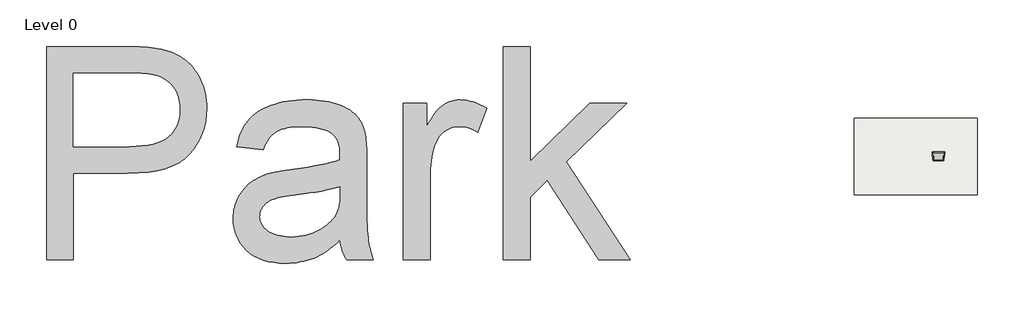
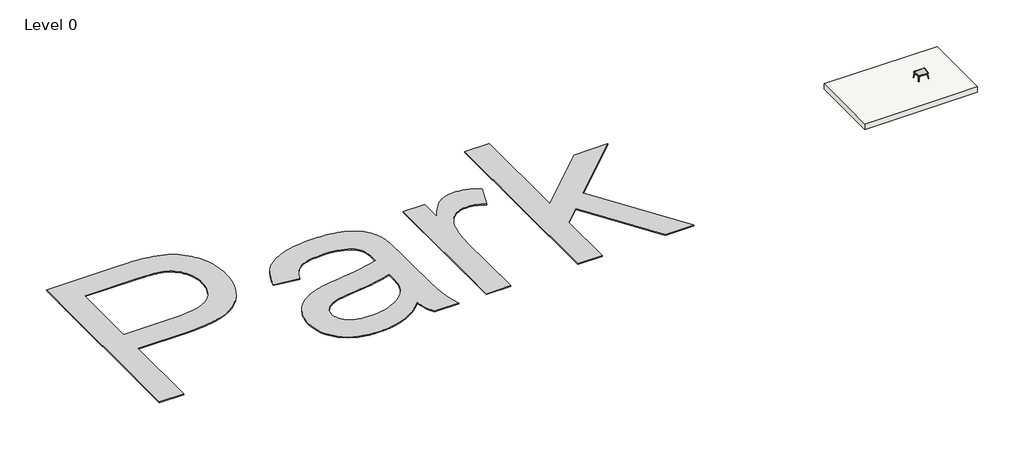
# One storey, incomplete: 1 furniture element, 1 proxy, 1 slab.
"""IFC4 building model written with IfcOpenShell, lengths in millimetres."""

from ifc_helpers import new_model, si_unit, frame, origin, origin_with_axes, place, context, project, spatial, polyline, outline, extrude, transform, mapped, element, save
from components import furniture_a147c030

model = new_model("IFC4")

# Units and contexts
model_context = context("Model", 3, world=origin())
ifc_project = project(units=[si_unit("LENGTHUNIT", "METRE", prefix="MILLI")], contexts=[model_context])

# Site, building, storey
site = spatial("IfcSite", under=ifc_project)
building = spatial("IfcBuilding", under=site)
storey = spatial("IfcBuildingStorey", under=building, Name="Level 0", Elevation=0.0)

# Proxy
placement = place(None, origin())
element("IfcBuildingElementProxy", 1, Name="10 mm", ObjectType="10 mm", at=placement, inside=storey, context=model_context, shape_type="SweptSolid", body=[
    extrude(outline(polyline([(-143068.5939078, 70710.4267394), (-143068.5939078, 80756.0577544), (-139345.6281167, 80756.0577544), (-139107.0413144, 80754.5632338), (-138883.0165077, 80750.0796719), (-138673.5536967, 80742.6070689), (-138478.6528814, 80732.1454247), (-138298.3140616, 80718.6947392), (-138132.5372376, 80702.2550126), (-137981.3224091, 80682.8262447), (-137844.6695763, 80660.4084356), (-137666.2659692, 80626.2452274), (-137495.258323, 80585.0692687), (-137331.6466377, 80536.8805594), (-137175.4309134, 80481.6790996), (-137026.6111501, 80419.4648893), (-136885.1873477, 80350.2379284), (-136751.1595062, 80273.998217), (-136624.5276257, 80190.7457551), (-136504.6019273, 80099.6566403), (-136390.6926325, 79999.9069701), (-136282.7997411, 79891.4967447), (-136180.9232531, 79774.4259639), (-136085.0631687, 79648.6946278), (-135995.2194877, 79514.3027365), (-135911.3922101, 79371.2502898), (-135833.581336, 79219.5372878), (-135763.4538307, 79061.5971167), (-135702.6766594, 78899.8631625), (-135651.2498222, 78734.3354251), (-135609.173319, 78565.0139048), (-135576.4471498, 78391.8986013), (-135553.0713147, 78214.9895148), (-135539.0458136, 78034.2866452), (-135534.3706466, 77849.7899925), (-135546.9974297, 77535.2892076), (-135584.8777789, 77233.1277981), (-135648.0116942, 76943.3057637), (-135736.3991756, 76665.8231047), (-135850.0402232, 76400.6798208), (-135988.9348369, 76147.8759123), (-136153.0830167, 75907.411379), (-136342.4847627, 75679.2862209), (-136564.8426041, 75471.2029674), (-136827.8590701, 75290.8641477), (-137131.5341608, 75138.2697618), (-137475.8678762, 75013.4198097), (-137860.8602162, 74916.3142914), (-138286.511181, 74846.9532068), (-138752.8207704, 74805.3365561), (-139259.7889844, 74791.4643392), (-141812.890031, 74791.4643392), (-141812.890031, 70710.4267394), (-143068.5939078, 70710.4267394)]), holes=[polyline([(-141812.890031, 76047.1682161), (-139186.2125854, 76047.1682161), (-138872.4399004, 76054.3725718), (-138582.2729767, 76075.9856391), (-138315.7118143, 76112.0074178), (-138072.7564133, 76162.4379079), (-137853.4067737, 76227.2771096), (-137657.6628955, 76306.5250227), (-137485.5247785, 76400.1816473), (-137336.992423, 76508.2469834), (-137208.8085403, 76629.3797945), (-137097.715842, 76762.2388442), (-137003.714328, 76906.8241325), (-136926.8039984, 77063.1356595), (-136866.9848531, 77231.173425), (-136824.2568922, 77410.9374291), (-136798.6201157, 77602.4276718), (-136790.0745235, 77805.6441531), (-136795.1137404, 77954.9429294), (-136810.2313911, 78098.7234759), (-136835.4274757, 78236.9857924), (-136870.7019941, 78369.729879), (-136916.0549463, 78496.9557357), (-136971.4863324, 78618.6633624), (-137036.9961522, 78734.8527592), (-137112.5844059, 78845.5239261), (-137196.3733624, 78948.8374531), (-137286.4852907, 79042.9539302), (-137382.9201908, 79127.8733574), (-137485.6780627, 79203.5957347), (-137594.7589064, 79270.1210622), (-137710.1627218, 79327.4493398), (-137831.8895091, 79375.5805675), (-137959.9392682, 79414.5147453), (-138054.1323873, 79434.6332919), (-138166.2597538, 79452.0693656), (-138296.3213675, 79466.8229665), (-138444.3172285, 79478.8940944), (-138610.2473367, 79488.2827495), (-138794.1116922, 79494.9889317), (-139215.643145, 79500.3538775), (-141812.890031, 79500.3538775), (-141812.890031, 76047.1682161)])]), origin_with_axes(), (0.0, 0.0, 1.0), 50.0),
    extrude(outline(polyline([(-129255.8512623, 71652.2046471), (-129404.1728521, 71506.92958), (-129553.6057521, 71372.7676149), (-129704.1499623, 71249.7187517), (-129855.8054827, 71137.7829905), (-130008.5723133, 71036.9603312), (-130162.4504541, 70947.2507738), (-130317.4399051, 70868.6543184), (-130473.5406663, 70801.1709649), (-130631.6341216, 70743.1145875), (-130792.601655, 70692.7990605), (-130956.4432665, 70650.2243837), (-131123.1589561, 70615.3905573), (-131292.7487238, 70588.2975812), (-131465.2125696, 70568.9454554), (-131640.5504934, 70557.33418), (-131818.7624953, 70553.4637548), (-132106.9175644, 70562.7757678), (-132377.8664859, 70590.7118068), (-132631.60926, 70637.2718718), (-132868.1458866, 70702.4559628), (-133087.4763657, 70786.2640799), (-133289.6006973, 70888.6962229), (-133474.5188814, 71009.7523919), (-133642.2309181, 71149.432587), (-133791.3955708, 71303.5981356), (-133920.6716032, 71468.1103653), (-134030.0590152, 71642.9692761), (-134119.5578068, 71828.1748681), (-134189.1679781, 72023.7271412), (-134238.889529, 72229.6260953), (-134268.7224596, 72445.8717306), (-134278.6667698, 72672.464047), (-134274.9113077, 72807.0858646), (-134263.6449216, 72938.718641), (-134244.8676114, 73067.3623762), (-134218.5793772, 73193.0170702), (-134184.7802189, 73315.682723), (-134143.4701365, 73435.3593345), (-134094.6491301, 73552.0469049), (-134038.3171996, 73665.745434), (-133975.873063, 73775.1903276), (-133908.7154384, 73879.1169912), (-133836.8443257, 73977.5254249), (-133760.2597249, 74070.4156287), (-133678.9616361, 74157.7876025), (-133592.9500592, 74239.6413465), (-133502.2249942, 74315.9768605), (-133406.7864412, 74386.7941445), (-133307.477463, 74452.7829774), (-133205.1411226, 74514.6331379), (-133099.7774199, 74572.3446259), (-132991.386355, 74625.9174414), (-132879.9679278, 74675.3515845), (-132765.5221383, 74720.6470552), (-132648.0489867, 74761.8038534), (-132527.5484727, 74798.8219791), (-132324.4469545, 74847.4130593), (-132075.6667553, 74895.0844345), (-131781.207875, 74941.8361048), (-131441.0703136, 74987.66807), (-131083.5349996, 75034.1131719), (-130750.3718677, 75082.7042521), (-130441.580918, 75133.4413106), (-130157.1621505, 75186.3243474), (-129897.1155651, 75241.3533625), (-129661.441162, 75298.5283559), (-129450.138941, 75357.8493276), (-129263.2089022, 75419.3162777), (-129255.8512623, 75698.906594), (-129261.2545291, 75857.172494), (-129277.4643295, 76003.328945), (-129304.4806635, 76137.375947), (-129342.3035311, 76259.3135), (-129390.9329324, 76369.141604), (-129450.3688672, 76466.8602589), (-129520.6113357, 76552.4694649), (-129601.6603377, 76625.9692219), (-129725.2840165, 76711.0419332), (-129863.1631226, 76784.7716164), (-130015.2976561, 76847.1582715), (-130181.6876168, 76898.2018983), (-130362.3330049, 76937.9024969), (-130557.2338202, 76966.2600674), (-130766.3900629, 76983.2746097), (-130989.8017329, 76988.9461238), (-131197.9616285, 76985.1715012), (-131392.0193809, 76973.8476335), (-131571.9749902, 76954.9745208), (-131737.8284564, 76928.5521629), (-131889.5797794, 76894.5805599), (-132027.2289593, 76853.0597118), (-132150.775996, 76803.9896186), (-132260.2208896, 76747.3702803), (-132359.280781, 76681.1323606), (-132451.6728112, 76603.2065234), (-132537.3969803, 76513.5927686), (-132616.4532882, 76412.2910963), (-132688.841735, 76299.3015064), (-132754.5623206, 76174.623999), (-132813.615045, 76038.258574), (-132865.9999083, 75890.2052315), (-134121.7037851, 76047.1682161), (-134077.2705379, 76232.6420553), (-134026.1311085, 76408.9188447), (-133968.2854968, 76575.9985842), (-133903.733703, 76733.8812738), (-133832.475727, 76882.5669135), (-133754.5115687, 77022.0555033), (-133669.8412283, 77152.3470433), (-133578.4647056, 77273.4415334), (-133478.4851092, 77386.6035679), (-133368.0055475, 77493.0977413), (-133247.0260206, 77592.9240536), (-133115.5465283, 77686.0825046), (-132973.5670708, 77772.5730945), (-132821.087648, 77852.3958233), (-132658.10826, 77925.5506909), (-132484.6289066, 77992.0376973), (-132302.3548743, 78051.2437059), (-132112.9914494, 78102.55558), (-131916.5386319, 78145.9733196), (-131712.9964217, 78181.4969248), (-131502.364819, 78209.1263955), (-131284.6438236, 78228.8617317), (-131059.8334356, 78240.7029334), (-130827.933655, 78244.6500006), (-130599.2145208, 78241.1627859), (-130381.4935254, 78230.7011416), (-130174.7706689, 78213.2650679), (-129979.0459511, 78188.8545647), (-129794.3193722, 78157.469632), (-129620.5909321, 78119.1102698), (-129457.8606308, 78073.7764781), (-129306.1284683, 78021.4682569), (-129164.7429869, 77963.8908925), (-129033.0527289, 77902.7496714), (-128911.0576944, 77838.0445934), (-128798.7578833, 77769.7756585), (-128696.1532955, 77697.9428669), (-128603.2439312, 77622.5462184), (-128520.0297904, 77543.5857131), (-128446.5108729, 77461.0613509), (-128380.4070769, 77373.9767849), (-128319.4383004, 77281.3356678), (-128263.6045434, 77183.1379999), (-128212.9058059, 77079.3837809), (-128167.342088, 76970.073011), (-128126.9133896, 76855.2056901), (-128091.6197107, 76734.7818182), (-128061.4610513, 76608.8013954), (-128047.0906608, 76521.8892741), (-128034.6363225, 76420.5684412), (-128015.4758019, 76174.7006411), (-128003.9794895, 75871.1979951), (-128000.1473854, 75510.0605032), (-128000.1473854, 73947.788297), (-127996.1619971, 73199.8382155), (-127984.2058323, 72586.9314831), (-127975.2387086, 72331.1193728), (-127964.2788909, 72109.0680998), (-127951.326379, 71920.7776641), (-127936.3811729, 71766.2480656), (-127918.5235677, 71629.307825), (-127896.8338584, 71493.7854629), (-127871.312045, 71359.6809793), (-127841.9581275, 71226.9943743), (-127808.7721058, 71095.7256478), (-127771.7539801, 70965.8747998), (-127730.9037502, 70837.4418303), (-127686.2214162, 70710.4267394), (-128941.9252931, 70710.4267394), (-129000.479844, 70813.1271297), (-129053.5161649, 70920.1194767), (-129101.034256, 71031.4037802), (-129143.0341171, 71146.9800404), (-129179.5157483, 71266.8482571), (-129210.4791495, 71391.0084305), (-129235.9243209, 71519.4605605), (-129255.8512623, 71652.2046471)]), holes=[polyline([(-129255.8512623, 74163.6124008), (-129435.0404508, 74108.2384963), (-129635.382854, 74054.9339281), (-129856.8784719, 74003.698696), (-130099.5273045, 73954.5328002), (-130363.3293519, 73907.4362406), (-130648.284614, 73862.4090173), (-130954.3930908, 73819.4511301), (-131281.6547824, 73778.5625792), (-131635.2047082, 73731.810909), (-131933.1124822, 73682.3001238), (-132061.2005623, 73656.5100631), (-132175.3781044, 73630.0302236), (-132275.6451086, 73602.8606054), (-132362.0015749, 73575.0012085), (-132439.1226702, 73545.1491175), (-132511.6835617, 73512.0014168), (-132579.6842492, 73475.5581067), (-132643.1247329, 73435.819187), (-132702.0050126, 73392.7846578), (-132756.3250885, 73346.454519), (-132806.0849604, 73296.8287707), (-132851.2846285, 73243.9074129), (-132891.5217217, 73188.6101505), (-132926.3938692, 73131.8566885), (-132955.9010708, 73073.647027), (-132980.0433268, 73013.9811659), (-132998.820637, 72952.8591052), (-133012.2330014, 72890.280845), (-133020.28042, 72826.2463852), (-133022.9628929, 72760.7557259), (-133017.1189341, 72661.0826978), (-132999.5870578, 72565.6249843), (-132970.3672639, 72474.3825852), (-132929.4595524, 72387.3555008), (-132876.8639234, 72304.5437308), (-132812.5803769, 72225.9472754), (-132736.6089128, 72151.5661345), (-132648.9495311, 72081.4003081), (-132549.9854423, 72017.5957746), (-132440.0998568, 71962.2985122), (-132319.2927745, 71915.5085209), (-132187.5641955, 71877.2258008), (-132044.9141198, 71847.4503518), (-131891.3425473, 71826.1821739), (-131726.8494781, 71813.4212672), (-131551.4349122, 71809.1676317), (-131375.4646912, 71813.8619592), (-131204.3995634, 71827.9449418), (-131038.2395289, 71851.4165796), (-130876.9845877, 71884.2768724), (-130720.6347397, 71926.5258202), (-130569.1899851, 71978.1634232), (-130422.6503236, 72039.1896813), (-130281.0157555, 72109.6045944), (-130146.4322589, 72186.6873687), (-130021.0458122, 72267.7172102), (-129904.8564154, 72352.694119), (-129797.8640685, 72441.618095), (-129700.0687715, 72534.4891383), (-129611.4705243, 72631.3072488), (-129532.069327, 72732.0724266), (-129461.8651796, 72836.7846715), (-129415.3051146, 72923.8500771), (-129374.9530582, 73020.7256691), (-129340.8090105, 73127.4114477), (-129312.8729715, 73243.9074129), (-129291.1449412, 73370.2135645), (-129275.6249195, 73506.3299028), (-129266.3129065, 73652.2564275), (-129263.2089022, 73807.9931388), (-129255.8512623, 74163.6124008)])]), origin_with_axes(), (0.0, 0.0, 1.0), 50.0),
    extrude(outline(polyline([(-126273.5545547, 70710.4267394), (-126273.5545547, 78087.687016), (-125174.8136624, 78087.687016), (-125174.8136624, 76996.3037637), (-125070.3505042, 77178.8652038), (-124967.8800402, 77345.1785224), (-124867.4022702, 77495.2437196), (-124768.9171944, 77629.0607954), (-124672.4248128, 77746.6297497), (-124577.9251253, 77847.9505825), (-124485.4181319, 77933.0232939), (-124394.9038327, 78001.8478838), (-124304.3128914, 78058.7546299), (-124211.5759717, 78108.0738099), (-124116.6930738, 78149.8054237), (-124019.6641976, 78183.9494714), (-123920.4893431, 78210.505953), (-123819.1685102, 78229.4748683), (-123715.7016991, 78240.8562176), (-123610.0889096, 78244.6500006), (-123454.6587667, 78238.5952761), (-123298.615487, 78220.4311026), (-123141.9590708, 78190.1574801), (-122984.6895178, 78147.7744086), (-122826.8068282, 78093.281888), (-122668.311002, 78026.6799185), (-122509.2020391, 77947.9684999), (-122349.4799395, 77857.1476324), (-122768.865414, 76731.4287271), (-122879.2300125, 76791.784367), (-122989.5946111, 76844.0925882), (-123099.9592096, 76888.3533907), (-123210.3238082, 76924.5667746), (-123320.6884068, 76952.7327399), (-123431.0530053, 76972.8512865), (-123541.4176039, 76984.9224144), (-123651.7822024, 76988.9461238), (-123749.2517706, 76985.0756986), (-123844.2304711, 76973.4644231), (-123936.718304, 76954.1122973), (-124026.7152692, 76927.0193212), (-124114.2213667, 76892.1854948), (-124199.2365965, 76849.6108181), (-124281.7609586, 76799.295291), (-124361.7944531, 76741.2389137), (-124437.8042383, 76676.3230699), (-124508.2574724, 76605.4291438), (-124573.1541556, 76528.5571352), (-124632.4942879, 76445.7070442), (-124686.2778692, 76356.8788708), (-124734.5048995, 76262.072615), (-124777.1753788, 76161.2882767), (-124814.2893072, 76054.525856), (-124861.9990034, 75885.1468541), (-124903.3474068, 75711.7824638), (-124938.3345174, 75534.4326853), (-124966.9603352, 75353.0975185), (-124989.2248601, 75167.7769635), (-125005.1280922, 74978.4710201), (-125014.6700314, 74785.1796885), (-125017.8506778, 74587.9029686), (-125017.8506778, 70710.4267394), (-126273.5545547, 70710.4267394)])), origin_with_axes(), (0.0, 0.0, 1.0), 50.0),
    extrude(outline(polyline([(-121564.6650164, 70710.4267394), (-121564.6650164, 80756.0577544), (-120308.9611396, 80756.0577544), (-120308.9611396, 75358.0026118), (-117493.4376032, 78087.687016), (-115757.0345859, 78087.687016), (-118606.8937752, 75323.6669589), (-115600.0716013, 70710.4267394), (-117066.6944887, 70710.4267394), (-119506.9783901, 74450.560357), (-120308.9611396, 73673.1030739), (-120308.9611396, 70710.4267394), (-121564.6650164, 70710.4267394)])), origin_with_axes(), (0.0, 0.0, 1.0), 50.0),
])

# Furniture
furniture_shape = furniture_a147c030(model_context)
element("IfcFurniture", 2, ObjectType="Ottoman_Bensen_Park_PRK000 : Ottoman_Bensen_Park_PRK000", at=placement, inside=storey, context=model_context, shape_type="MappedRepresentation", body=[
    mapped(furniture_shape, transform((-101081.8228895, 75589.2203218, 0.0), x_axis=(1.0, 0.0, 0.0), y_axis=(0.0, 1.0, 0.0), z_axis=(0.0, 0.0, 1.0))),
])

# Slab
element("IfcSlab", 3, ObjectType="FL_300 mm_Generic", at=placement, inside=storey, context=model_context, shape_type="SweptSolid", body=[
    extrude(outline(polyline([(-99247.8885325, 77369.9753886), (-99247.8885325, 73769.9753886), (-105047.8885325, 73769.9753886), (-105047.8885325, 77369.9753886), (-99247.8885325, 77369.9753886)])), frame((0.0, 0.0, -300.0), z_axis=(0.0, 0.0, 1.0), x_axis=(1.0, 0.0, 0.0)), (0.0, 0.0, 1.0), 300.0),
])

save(model, "model.ifc")
